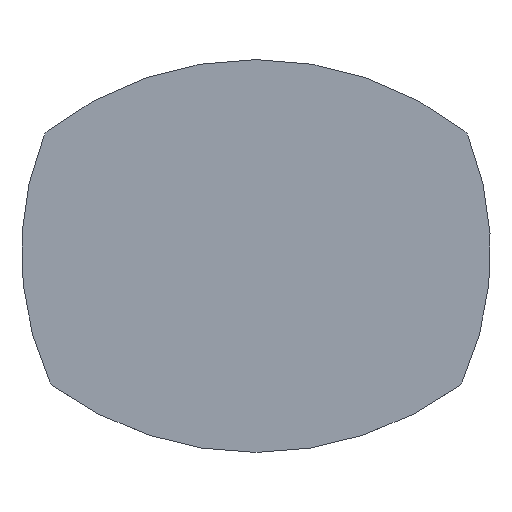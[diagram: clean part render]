
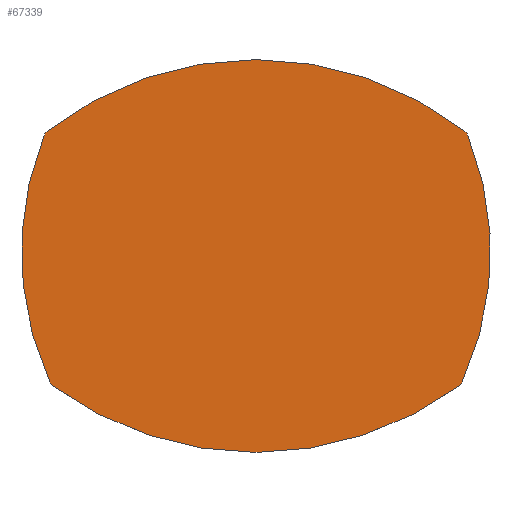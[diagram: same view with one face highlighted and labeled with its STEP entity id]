
A CAD part, top view. The second image highlights one B-rep face of the part: STEP entity #67339.
In plain terms, the highlighted planar face has unit normal (0, 0, 1).
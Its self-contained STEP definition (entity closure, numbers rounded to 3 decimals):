
#4211=CIRCLE('',#73439,10.);
#4212=CIRCLE('',#73441,355.);
#4213=CIRCLE('',#73442,10.);
#4214=CIRCLE('',#73443,323.);
#4215=CIRCLE('',#73444,10.);
#4216=CIRCLE('',#73445,352.);
#4217=CIRCLE('',#73446,10.);
#4218=CIRCLE('',#73447,323.);
#7962=FACE_OUTER_BOUND('',#11707,.T.);
#11707=EDGE_LOOP('',(#58211,#58212,#58213,#58214,#58215,#58216,#58217,#58218));
#30443=VERTEX_POINT('',#113391);
#30444=VERTEX_POINT('',#113393);
#30445=VERTEX_POINT('',#113397);
#30446=VERTEX_POINT('',#113399);
#30447=VERTEX_POINT('',#113401);
#30448=VERTEX_POINT('',#113403);
#30449=VERTEX_POINT('',#113405);
#30450=VERTEX_POINT('',#113407);
#39701=EDGE_CURVE('',#30443,#30444,#4211,.T.);
#39703=EDGE_CURVE('',#30445,#30443,#4212,.T.);
#39704=EDGE_CURVE('',#30446,#30445,#4213,.T.);
#39705=EDGE_CURVE('',#30447,#30446,#4214,.T.);
#39706=EDGE_CURVE('',#30448,#30447,#4215,.T.);
#39707=EDGE_CURVE('',#30449,#30448,#4216,.T.);
#39708=EDGE_CURVE('',#30450,#30449,#4217,.T.);
#39709=EDGE_CURVE('',#30444,#30450,#4218,.T.);
#58211=ORIENTED_EDGE('',*,*,#39701,.F.);
#58212=ORIENTED_EDGE('',*,*,#39703,.F.);
#58213=ORIENTED_EDGE('',*,*,#39704,.F.);
#58214=ORIENTED_EDGE('',*,*,#39705,.F.);
#58215=ORIENTED_EDGE('',*,*,#39706,.F.);
#58216=ORIENTED_EDGE('',*,*,#39707,.F.);
#58217=ORIENTED_EDGE('',*,*,#39708,.F.);
#58218=ORIENTED_EDGE('',*,*,#39709,.F.);
#60401=PLANE('',#73440);
#67339=ADVANCED_FACE('',(#7962),#60401,.F.);
#73439=AXIS2_PLACEMENT_3D('',#113394,#91890,#91891);
#73440=AXIS2_PLACEMENT_3D('',#113396,#91893,#91894);
#73441=AXIS2_PLACEMENT_3D('',#113398,#91895,#91896);
#73442=AXIS2_PLACEMENT_3D('',#113400,#91897,#91898);
#73443=AXIS2_PLACEMENT_3D('',#113402,#91899,#91900);
#73444=AXIS2_PLACEMENT_3D('',#113404,#91901,#91902);
#73445=AXIS2_PLACEMENT_3D('',#113406,#91903,#91904);
#73446=AXIS2_PLACEMENT_3D('',#113408,#91905,#91906);
#73447=AXIS2_PLACEMENT_3D('',#113409,#91907,#91908);
#91890=DIRECTION('center_axis',(0.,0.,
-1.));
#91891=DIRECTION('ref_axis',(-0.776,-0.631,0.));
#91893=DIRECTION('center_axis',(0.,0.,
-1.));
#91894=DIRECTION('ref_axis',(1.,0.,0.));
#91895=DIRECTION('center_axis',(0.,0.,
-1.));
#91896=DIRECTION('ref_axis',(0.599,-0.801,0.));
#91897=DIRECTION('center_axis',(0.,0.,
-1.));
#91898=DIRECTION('ref_axis',(0.776,-0.631,0.));
#91899=DIRECTION('center_axis',(0.,0.,
-1.));
#91900=DIRECTION('ref_axis',(0.924,0.382,0.));
#91901=DIRECTION('center_axis',(0.,0.,
-1.));
#91902=DIRECTION('ref_axis',(0.798,0.602,0.));
#91903=DIRECTION('center_axis',(0.,0.,
-1.));
#91904=DIRECTION('ref_axis',(-0.621,0.784,0.));
#91905=DIRECTION('center_axis',(0.,0.,
-1.));
#91906=DIRECTION('ref_axis',(-0.798,0.602,0.));
#91907=DIRECTION('center_axis',(0.,0.,
-1.));
#91908=DIRECTION('ref_axis',(-0.906,-0.424,0.));
#113391=CARTESIAN_POINT('',(-210.525,-285.84,569.));
#113393=CARTESIAN_POINT('',(-213.687,-281.95,569.));
#113394=CARTESIAN_POINT('Origin',(-204.595,-277.788,569.));
#113396=CARTESIAN_POINT('Origin',(0.,-151.453,
569.));
#113397=CARTESIAN_POINT('',(210.525,-285.84,569.));
#113398=CARTESIAN_POINT('Origin',(0.,0.,
569.));
#113399=CARTESIAN_POINT('',(213.687,-281.95,569.));
#113400=CARTESIAN_POINT('Origin',(204.595,-277.788,569.));
#113401=CARTESIAN_POINT('',(219.469,-26.473,569.));
#113402=CARTESIAN_POINT('Origin',(-80.,-147.5,569.));
#113403=CARTESIAN_POINT('',(216.343,-22.332,569.));
#113404=CARTESIAN_POINT('Origin',(210.197,-30.22,569.));
#113405=CARTESIAN_POINT('',(-216.343,-22.332,569.));
#113406=CARTESIAN_POINT('Origin',(0.,-300.,569.));
#113407=CARTESIAN_POINT('',(-219.469,-26.473,569.));
#113408=CARTESIAN_POINT('Origin',(-210.197,-30.22,569.));
#113409=CARTESIAN_POINT('Origin',(80.,-147.5,569.));
